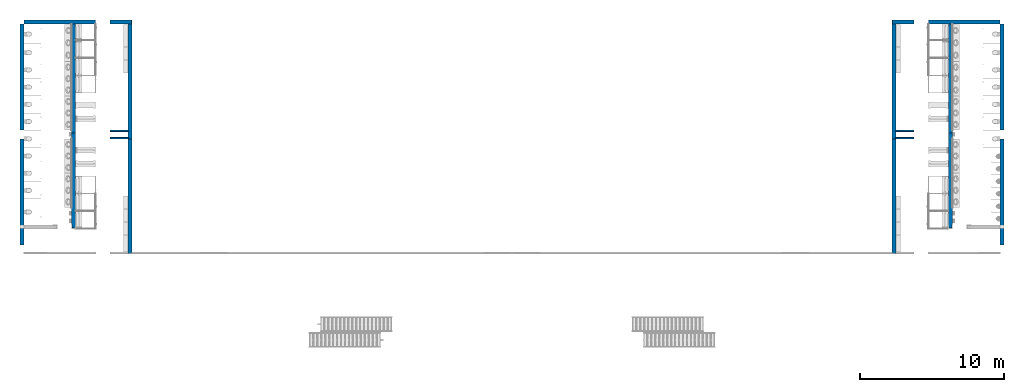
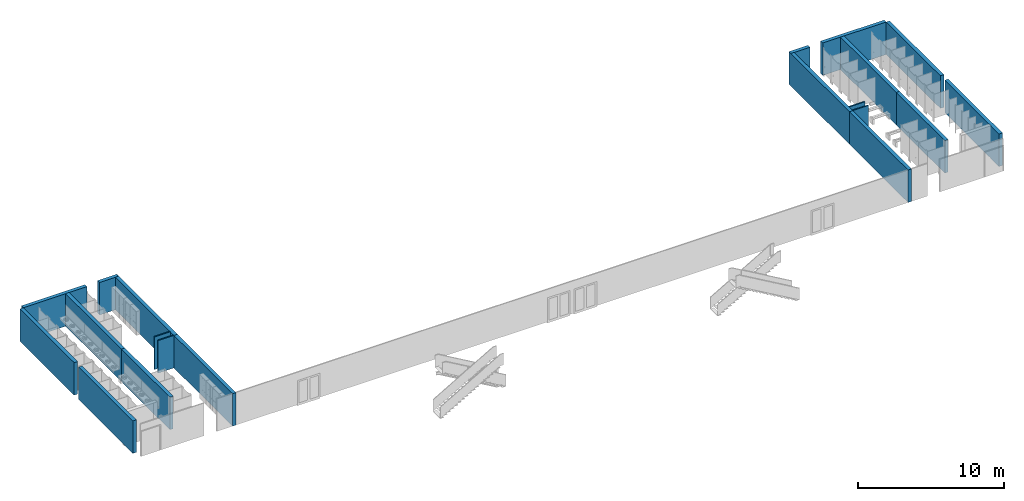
# One storey, part 1 of 22: 16 walls.
"""IFC2X3 building model written with IfcOpenShell, lengths in millimetres."""

from ifc_helpers import new_model, entity, si_unit, converted_unit, derived_unit, direction, frame, frame_2d, origin, origin_2d_with_axis, place, context, subcontext, project, spatial, polyline, rectangle, outline, extrude, material, type_object, element, save


model = new_model("IFC2X3")

# Units and contexts
model_context = context("Model", 3, precision=0.01, world=origin(), true_north=direction((6.12303176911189e-17, 1.0)))
body_context = subcontext(model_context, "Body", "Model", "MODEL_VIEW")
ifc_project = project(units=[si_unit("LENGTHUNIT", "METRE", prefix="MILLI"), si_unit("AREAUNIT", "SQUARE_METRE"), si_unit("VOLUMEUNIT", "CUBIC_METRE"), converted_unit("PLANEANGLEUNIT", "DEGREE", entity("IfcRatioMeasure", 0.0174532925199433), si_unit("PLANEANGLEUNIT", "RADIAN"), dimensions=[0, 0, 0, 0, 0, 0, 0]), si_unit("MASSUNIT", "GRAM", prefix="KILO"), derived_unit("MASSDENSITYUNIT", [(si_unit("MASSUNIT", "GRAM", prefix="KILO"), 1), (si_unit("LENGTHUNIT", "METRE"), -3)]), si_unit("TIMEUNIT", "SECOND"), si_unit("FREQUENCYUNIT", "HERTZ"), si_unit("THERMODYNAMICTEMPERATUREUNIT", "DEGREE_CELSIUS"), derived_unit("THERMALTRANSMITTANCEUNIT", [(si_unit("MASSUNIT", "GRAM", prefix="KILO"), 1), (si_unit("THERMODYNAMICTEMPERATUREUNIT", "KELVIN"), -1), (si_unit("TIMEUNIT", "SECOND"), -3)]), derived_unit("VOLUMETRICFLOWRATEUNIT", [(si_unit("LENGTHUNIT", "METRE"), 3), (si_unit("TIMEUNIT", "SECOND"), -1)]), si_unit("ELECTRICCURRENTUNIT", "AMPERE"), si_unit("ELECTRICVOLTAGEUNIT", "VOLT"), si_unit("POWERUNIT", "WATT"), si_unit("FORCEUNIT", "NEWTON", prefix="KILO"), si_unit("ILLUMINANCEUNIT", "LUX"), si_unit("LUMINOUSFLUXUNIT", "LUMEN"), si_unit("LUMINOUSINTENSITYUNIT", "CANDELA"), derived_unit("USERDEFINED", [(si_unit("MASSUNIT", "GRAM", prefix="KILO"), -1), (si_unit("LENGTHUNIT", "METRE"), -2), (si_unit("TIMEUNIT", "SECOND"), 3), (si_unit("LUMINOUSFLUXUNIT", "LUMEN"), 1)]), derived_unit("LINEARVELOCITYUNIT", [(si_unit("LENGTHUNIT", "METRE"), 1), (si_unit("TIMEUNIT", "SECOND"), -1)]), si_unit("PRESSUREUNIT", "PASCAL"), derived_unit("USERDEFINED", [(si_unit("LENGTHUNIT", "METRE"), -2), (si_unit("MASSUNIT", "GRAM", prefix="KILO"), 1), (si_unit("TIMEUNIT", "SECOND"), -2)])], contexts=[model_context])

# Site, building, storey
site_placement = place(None, origin())
site = spatial("IfcSite", under=ifc_project, at=site_placement, Name="Default", CompositionType="ELEMENT")
building_placement = place(site_placement, origin())
building = spatial("IfcBuilding", under=site, at=building_placement, CompositionType="ELEMENT")
storey_placement = place(building_placement, frame((0.0, 0.0, -3000.0)))
storey = spatial("IfcBuildingStorey", under=building, at=storey_placement, Name="-2. Story", CompositionType="ELEMENT", Elevation=-3000.0)

# Walls
ifc_material = material(Name="Stucco - White Fine")
wall_type_1 = type_object("IfcWallType", Name="SW - 015", PredefinedType="NOTDEFINED", material=ifc_material)
wall_1_placement = place(storey_placement, frame((54248.5254833, 74503.1569014, 90.0), z_axis=(0.0, 0.0, 1.0), x_axis=(0.0, 1.0, 0.0)))
element("IfcWall", 1, at=wall_1_placement, inside=storey, type_object=wall_type_1, material=ifc_material, Name="SW - 015:SW - 015", ObjectType="SW - 015:SW - 015", context=body_context, shape_type="SweptSolid", body=[
    extrude(rectangle(XDim=7900.00000000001, YDim=12.4999999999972, at=frame_2d((0.0, 4.33164615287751e-12), x_axis=(1.0, 0.0))), frame((4050.0, -6.24999999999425, 0.0), z_axis=(0.0, 0.0, 1.0), x_axis=(-1.0, 0.0, 0.0)), (0.0, 0.0, 1.0), 2710.0),
    extrude(rectangle(XDim=8000.0, YDim=250.000000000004, at=frame_2d((8.64019966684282e-12, 4.33431068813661e-12), x_axis=(1.0, 0.0))), frame((4000.0, -137.499999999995, 0.0), z_axis=(0.0, 0.0, 1.0), x_axis=(-1.0, 0.0, 0.0)), (0.0, 0.0, 1.0), 2710.0),
    extrude(rectangle(XDim=12.4999999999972, YDim=7900.00000000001, at=frame_2d((-4.33164615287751e-12, 0.0), x_axis=(1.0, 0.0))), frame((4050.0, -268.749999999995, 0.0), z_axis=(0.0, 0.0, 1.0), x_axis=(0.0, 1.0, 0.0)), (0.0, 0.0, 1.0), 2710.0),
])
wall_type_2 = type_object("IfcWallType", Name="SW - 013", PredefinedType="NOTDEFINED", material=ifc_material)
wall_2_placement = place(storey_placement, frame((46733.8569215, 75103.1569014, 90.0), z_axis=(0.0, 0.0, 1.0), x_axis=(0.0, 1.0, 0.0)))
element("IfcWall", 2, at=wall_2_placement, inside=storey, type_object=wall_type_2, material=ifc_material, Name="SW - 013:SW - 013", ObjectType="SW - 013:SW - 013", context=body_context, shape_type="SweptSolid", body=[
    extrude(rectangle(XDim=12.4999999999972, YDim=7400.79143556, at=frame_2d((4.33164615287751e-12, 8.64019966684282e-12), x_axis=(1.0, 0.0))), frame((11701.18715332, -268.750000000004, 0.0), z_axis=(0.0, 0.0, 1.0), x_axis=(0.0, 1.0, 0.0)), (0.0, 0.0, 1.0), 2710.0),
    extrude(rectangle(XDim=12.4999999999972, YDim=1138.29143554, at=frame_2d((-4.33164615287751e-12, -4.32009983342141e-12), x_axis=(1.0, 0.0))), frame((569.145717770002, -268.750000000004, 0.0), z_axis=(0.0, 0.0, 1.0), x_axis=(0.0, -1.0, 0.0)), (0.0, 0.0, 1.0), 2710.0),
    extrude(rectangle(XDim=12.4999999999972, YDim=6012.49999999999, at=frame_2d((4.33164615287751e-12, 0.0), x_axis=(1.0, 0.0))), frame((4394.54143554, -268.750000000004, 0.0), z_axis=(0.0, 0.0, 1.0), x_axis=(0.0, 1.0, 0.0)), (0.0, 0.0, 1.0), 2710.0),
    extrude(rectangle(XDim=250.000000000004, YDim=7400.79143556, at=frame_2d((-4.33431068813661e-12, 8.64019966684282e-12), x_axis=(1.0, 0.0))), frame((11701.18715332, -137.499999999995, 0.0), z_axis=(0.0, 0.0, 1.0), x_axis=(0.0, 1.0, 0.0)), (0.0, 0.0, 1.0), 2710.0),
    extrude(rectangle(XDim=250.000000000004, YDim=7400.79143553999, at=frame_2d((-4.33431068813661e-12, 0.0), x_axis=(1.0, 0.0))), frame((3700.39571777, -137.499999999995, 0.0), z_axis=(0.0, 0.0, 1.0), x_axis=(0.0, 1.0, 0.0)), (0.0, 0.0, 1.0), 2710.0),
    extrude(rectangle(XDim=12.4999999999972, YDim=7400.79143556, at=frame_2d((4.33164615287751e-12, 8.64019966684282e-12), x_axis=(1.0, 0.0))), frame((11701.18715332, -6.25000000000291, 0.0), z_axis=(0.0, 0.0, 1.0), x_axis=(0.0, 1.0, 0.0)), (0.0, 0.0, 1.0), 2710.0),
    extrude(rectangle(XDim=12.4999999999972, YDim=7400.79143553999, at=frame_2d((4.33164615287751e-12, 0.0), x_axis=(1.0, 0.0))), frame((3700.39571777, -6.25000000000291, 0.0), z_axis=(0.0, 0.0, 1.0), x_axis=(0.0, 1.0, 0.0)), (0.0, 0.0, 1.0), 2710.0),
])
wall_type_3 = type_object("IfcWallType", Name="SW - 013", PredefinedType="NOTDEFINED", material=ifc_material)
wall_3_placement = place(storey_placement, frame((47008.8569215, 90504.7397724, 90.0)))
element("IfcWall", 3, at=wall_3_placement, inside=storey, type_object=wall_type_3, material=ifc_material, Name="SW - 013 1489415:SW - 013 1489415", ObjectType="SW - 013 1489415:SW - 013 1489415", context=body_context, shape_type="SweptSolid", body=[
    extrude(rectangle(XDim=12.4999999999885, YDim=1252.16856178, at=frame_2d((-8.66284821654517e-12, 4.37694325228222e-12), x_axis=(1.0, 0.0))), frame((6626.08428089, 6.24999999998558, 0.0), z_axis=(0.0, 0.0, 1.0), x_axis=(0.0, -1.0, 0.0)), (0.0, 0.0, 1.0), 2710.0),
    extrude(rectangle(XDim=12.4999999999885, YDim=1414.87365918, at=frame_2d((8.66284821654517e-12, 0.0), x_axis=(1.0, 0.0))), frame((4292.56317041, 6.24999999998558, 0.0), z_axis=(0.0, 0.0, 1.0), x_axis=(0.0, 1.0, 0.0)), (0.0, 0.0, 1.0), 2710.0),
    extrude(rectangle(XDim=12.4999999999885, YDim=3335.12634082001, at=frame_2d((-8.66284821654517e-12, 4.32009983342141e-12), x_axis=(1.0, 0.0))), frame((1667.56317041, 6.24999999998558, 0.0), z_axis=(0.0, 0.0, 1.0), x_axis=(0.0, -1.0, 0.0)), (0.0, 0.0, 1.0), 2710.0),
    extrude(rectangle(XDim=250.000000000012, YDim=1502.16856178, at=origin_2d_with_axis()), frame((6751.08428089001, 137.499999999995, 0.0), z_axis=(0.0, 0.0, 1.0), x_axis=(0.0, -1.0, 0.0)), (0.0, 0.0, 1.0), 2710.0),
    extrude(rectangle(XDim=250.000000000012, YDim=5000.0, at=frame_2d((0.0, 4.54747350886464e-12), x_axis=(1.0, 0.0))), frame((2500.0, 137.499999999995, 0.0), z_axis=(0.0, 0.0, 1.0), x_axis=(0.0, -1.0, 0.0)), (0.0, 0.0, 1.0), 2710.0),
    extrude(rectangle(XDim=12.4999999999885, YDim=1514.66856178, at=frame_2d((8.66284821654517e-12, -4.32009983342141e-12), x_axis=(1.0, 0.0))), frame((6757.33428089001, 268.750000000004, 0.0), z_axis=(0.0, 0.0, 1.0), x_axis=(0.0, -1.0, 0.0)), (0.0, 0.0, 1.0), 2710.0),
    extrude(rectangle(XDim=12.4999999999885, YDim=5000.0, at=frame_2d((8.66284821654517e-12, 4.54747350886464e-12), x_axis=(1.0, 0.0))), frame((2500.0, 268.750000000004, 0.0), z_axis=(0.0, 0.0, 1.0), x_axis=(0.0, -1.0, 0.0)), (0.0, 0.0, 1.0), 2710.0),
])
wall_type_4 = type_object("IfcWallType", Name="SW - 015", PredefinedType="NOTDEFINED", material=ifc_material)
wall_4_placement = place(storey_placement, frame((50331.4832624, 76278.9483369, 90.0), z_axis=(0.0, 0.0, 1.0), x_axis=(0.0, 1.0, 0.0)))
element("IfcWall", 4, at=wall_4_placement, inside=storey, type_object=wall_type_4, material=ifc_material, Name="SW - 015 1508229:SW - 015 1508229", ObjectType="SW - 015 1508229:SW - 015 1508229", context=body_context, shape_type="SweptSolid", body=[
    extrude(outline(polyline([(-4836.25, -137.499999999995), (1528.74999999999, -137.499999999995), (1528.74999999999, -125.0), (1778.75, -125.0), (1778.75, 125.0), (1528.74999999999, 125.0), (1528.74999999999, 137.500000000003), (-4836.25, 137.500000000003), (-4836.25, -137.499999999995)])), frame((1778.75, -137.499999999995, 0.0), z_axis=(0.0, 0.0, 1.0), x_axis=(-1.0, 0.0, 0.0)), (0.0, 0.0, 1.0), 2710.0),
])
wall_type_5 = type_object("IfcWallType", Name="SW - 016", PredefinedType="NOTDEFINED", material=ifc_material)
wall_5_placement = place(storey_placement, frame((53009.17084852, 82503.1569014, 90.0)))
element("IfcWall", 5, at=wall_5_placement, inside=storey, type_object=wall_type_5, material=ifc_material, Name="SW - 016:SW - 016", ObjectType="SW - 016:SW - 016", context=body_context, shape_type="SweptSolid", body=[
    extrude(rectangle(XDim=1251.85463478, YDim=11.9999999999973, at=frame_2d((-4.32009983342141e-12, 0.0), x_axis=(1.0, 0.0))), frame((625.927317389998, 94.0, 0.0), z_axis=(0.0, 0.0, 1.0), x_axis=(-1.0, 0.0, 0.0)), (0.0, 0.0, 1.0), 2710.0),
    extrude(rectangle(XDim=1251.85463478, YDim=76.0000000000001, at=frame_2d((-4.32009983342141e-12, -8.66506866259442e-12), x_axis=(1.0, 0.0))), frame((625.927317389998, 50.0, 0.0), z_axis=(0.0, 0.0, 1.0), x_axis=(-1.0, 0.0, 0.0)), (0.0, 0.0, 1.0), 2710.0),
    extrude(rectangle(XDim=1251.85463478, YDim=11.9999999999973, at=frame_2d((-4.32009983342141e-12, 0.0), x_axis=(1.0, 0.0))), frame((625.927317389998, 6.0, 0.0), z_axis=(0.0, 0.0, 1.0), x_axis=(-1.0, 0.0, 0.0)), (0.0, 0.0, 1.0), 2710.0),
])
wall_type_6 = type_object("IfcWallType", Name="SW - 015", PredefinedType="NOTDEFINED", material=ifc_material)
wall_6_placement = place(storey_placement, frame((54248.5254833, 82503.1569014, 90.0), z_axis=(0.0, 0.0, 1.0), x_axis=(0.0, 1.0, 0.0)))
element("IfcWall", 6, at=wall_6_placement, inside=storey, type_object=wall_type_6, material=ifc_material, Name="SW - 015 1539402:SW - 015 1539402", ObjectType="SW - 015 1539402:SW - 015 1539402", context=body_context, shape_type="SweptSolid", body=[
    extrude(rectangle(XDim=12.4999999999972, YDim=8264.08287106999, at=frame_2d((4.33164615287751e-12, 8.64019966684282e-12), x_axis=(1.0, 0.0))), frame((4132.04143553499, -268.749999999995, 0.0), z_axis=(0.0, 0.0, 1.0), x_axis=(0.0, -1.0, 0.0)), (0.0, 0.0, 1.0), 2710.0),
    extrude(rectangle(XDim=8014.08287107, YDim=250.000000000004, at=frame_2d((0.0, 4.33431068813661e-12), x_axis=(1.0, 0.0))), frame((4007.041435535, -137.500000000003, 0.0)), (0.0, 0.0, 1.0), 2710.0),
    extrude(rectangle(XDim=12.4999999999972, YDim=7401.58287106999, at=frame_2d((-4.33164615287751e-12, 0.0), x_axis=(1.0, 0.0))), frame((4300.791435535, -6.25000000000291, 0.0), z_axis=(0.0, 0.0, 1.0), x_axis=(0.0, -1.0, 0.0)), (0.0, 0.0, 1.0), 2710.0),
    extrude(rectangle(XDim=399.999999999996, YDim=12.4999999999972, at=frame_2d((-8.66862137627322e-12, 4.33164615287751e-12), x_axis=(1.0, 0.0))), frame((300.0, -6.25000000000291, 0.0)), (0.0, 0.0, 1.0), 2710.0),
])
wall_type_7 = type_object("IfcWallType", Name="SW - 015", PredefinedType="NOTDEFINED", material=ifc_material)
wall_7_placement = place(storey_placement, frame((50331.4832624, 82713.9483369, 90.0), z_axis=(0.0, 0.0, 1.0), x_axis=(0.0, 1.0, 0.0)))
element("IfcWall", 7, at=wall_7_placement, inside=storey, type_object=wall_type_7, material=ifc_material, Name="SW - 015 1539919:SW - 015 1539919", ObjectType="SW - 015 1539919:SW - 015 1539919", context=body_context, shape_type="SweptSolid", body=[
    extrude(rectangle(XDim=12.4999999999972, YDim=7790.79143554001, at=frame_2d((4.33164615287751e-12, 0.0), x_axis=(1.0, 0.0))), frame((3895.39571777, -268.750000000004, 0.0), z_axis=(0.0, 0.0, 1.0), x_axis=(0.0, 1.0, 0.0)), (0.0, 0.0, 1.0), 2710.0),
    extrude(rectangle(XDim=250.000000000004, YDim=7803.29143554, at=frame_2d((-4.33431068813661e-12, 8.64019966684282e-12), x_axis=(1.0, 0.0))), frame((3901.64571777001, -137.499999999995, 0.0), z_axis=(0.0, 0.0, 1.0), x_axis=(0.0, 1.0, 0.0)), (0.0, 0.0, 1.0), 2710.0),
    extrude(rectangle(XDim=12.4999999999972, YDim=7790.79143554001, at=frame_2d((4.33164615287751e-12, 0.0), x_axis=(1.0, 0.0))), frame((3895.39571777, -6.25000000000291, 0.0), z_axis=(0.0, 0.0, 1.0), x_axis=(0.0, 1.0, 0.0)), (0.0, 0.0, 1.0), 2710.0),
])
wall_type_8 = type_object("IfcWallType", Name="SW - 016", PredefinedType="NOTDEFINED", material=ifc_material)
wall_8_placement = place(storey_placement, frame((53009.17084852, 83003.1569014, 90.0)))
element("IfcWall", 8, at=wall_8_placement, inside=storey, type_object=wall_type_8, material=ifc_material, Name="SW - 016 1571308:SW - 016 1571308", ObjectType="SW - 016 1571308:SW - 016 1571308", context=body_context, shape_type="SweptSolid", body=[
    extrude(rectangle(XDim=1251.85463478, YDim=11.9999999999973, at=frame_2d((4.32009983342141e-12, 0.0), x_axis=(1.0, 0.0))), frame((625.927317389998, 94.0, 0.0)), (0.0, 0.0, 1.0), 2710.0),
    extrude(rectangle(XDim=1251.85463478, YDim=76.0000000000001, at=frame_2d((4.32009983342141e-12, -8.66506866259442e-12), x_axis=(1.0, 0.0))), frame((625.927317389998, 50.0, 0.0)), (0.0, 0.0, 1.0), 2710.0),
    extrude(rectangle(XDim=1251.85463478, YDim=12.0000000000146, at=frame_2d((4.32009983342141e-12, 8.66284821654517e-12), x_axis=(1.0, 0.0))), frame((625.927317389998, 6.0, 0.0)), (0.0, 0.0, 1.0), 2710.0),
])
wall_type_9 = type_object("IfcWallType", Name="SW - 013", PredefinedType="NOTDEFINED", material=ifc_material)
wall_9_placement = place(storey_placement, frame((115008.856922, 75103.1569014, 90.0), z_axis=(0.0, 0.0, 1.0), x_axis=(0.0, 1.0, 0.0)))
element("IfcWall", 9, at=wall_9_placement, inside=storey, type_object=wall_type_9, material=ifc_material, Name="SW - 013 1576260:SW - 013 1576260", ObjectType="SW - 013 1576260:SW - 013 1576260", context=body_context, shape_type="SweptSolid", body=[
    extrude(rectangle(XDim=12.4999999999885, YDim=7400.79143556, at=frame_2d((-8.66284821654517e-12, 8.64019966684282e-12), x_axis=(1.0, 0.0))), frame((11701.18715332, -268.749999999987, 0.0), z_axis=(0.0, 0.0, 1.0), x_axis=(0.0, 1.0, 0.0)), (0.0, 0.0, 1.0), 2710.0),
    extrude(rectangle(XDim=12.4999999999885, YDim=7400.79143553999, at=frame_2d((8.66284821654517e-12, 0.0), x_axis=(1.0, 0.0))), frame((3700.39571777, -268.749999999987, 0.0), z_axis=(0.0, 0.0, 1.0), x_axis=(0.0, -1.0, 0.0)), (0.0, 0.0, 1.0), 2710.0),
    extrude(rectangle(XDim=250.000000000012, YDim=7400.79143556, at=frame_2d((0.0, 8.64019966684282e-12), x_axis=(1.0, 0.0))), frame((11701.18715332, -137.499999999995, 0.0), z_axis=(0.0, 0.0, 1.0), x_axis=(0.0, 1.0, 0.0)), (0.0, 0.0, 1.0), 2710.0),
    extrude(rectangle(XDim=250.000000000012, YDim=7400.79143553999, at=origin_2d_with_axis()), frame((3700.39571777, -137.499999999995, 0.0), z_axis=(0.0, 0.0, 1.0), x_axis=(0.0, -1.0, 0.0)), (0.0, 0.0, 1.0), 2710.0),
    extrude(rectangle(XDim=12.4999999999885, YDim=7400.79143556, at=frame_2d((8.66284821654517e-12, 8.64019966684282e-12), x_axis=(1.0, 0.0))), frame((11701.18715332, -6.25000000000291, 0.0), z_axis=(0.0, 0.0, 1.0), x_axis=(0.0, 1.0, 0.0)), (0.0, 0.0, 1.0), 2710.0),
    extrude(rectangle(XDim=12.4999999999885, YDim=6012.49999999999, at=frame_2d((8.66284821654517e-12, 0.0), x_axis=(1.0, 0.0))), frame((4394.54143554, -6.25000000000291, 0.0), z_axis=(0.0, 0.0, 1.0), x_axis=(0.0, 1.0, 0.0)), (0.0, 0.0, 1.0), 2710.0),
    extrude(rectangle(XDim=12.4999999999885, YDim=1138.29143554, at=frame_2d((-8.66284821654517e-12, -4.32009983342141e-12), x_axis=(1.0, 0.0))), frame((569.145717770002, -6.25000000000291, 0.0), z_axis=(0.0, 0.0, 1.0), x_axis=(0.0, -1.0, 0.0)), (0.0, 0.0, 1.0), 2710.0),
])
wall_type_10 = type_object("IfcWallType", Name="SW - 013", PredefinedType="NOTDEFINED", material=ifc_material)
wall_10_placement = place(storey_placement, frame((107494.18836022, 90504.7397724, 90.0)))
element("IfcWall", 10, at=wall_10_placement, inside=storey, type_object=wall_type_10, material=ifc_material, Name="SW - 013 1576978:SW - 013 1576978", ObjectType="SW - 013 1576978:SW - 013 1576978", context=body_context, shape_type="SweptSolid", body=[
    extrude(rectangle(XDim=12.4999999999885, YDim=5000.00000000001, at=frame_2d((-8.66284821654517e-12, 1.75077730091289e-11), x_axis=(1.0, 0.0))), frame((5014.66856178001, 268.750000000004, 0.0), z_axis=(0.0, 0.0, 1.0), x_axis=(0.0, 1.0, 0.0)), (0.0, 0.0, 1.0), 2710.0),
    extrude(rectangle(XDim=12.4999999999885, YDim=1514.66856177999, at=frame_2d((-8.66284821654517e-12, 0.0), x_axis=(1.0, 0.0))), frame((757.334280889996, 268.750000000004, 0.0), z_axis=(0.0, 0.0, 1.0), x_axis=(0.0, 1.0, 0.0)), (0.0, 0.0, 1.0), 2710.0),
    extrude(rectangle(XDim=250.000000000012, YDim=5000.00000000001, at=frame_2d((0.0, 1.75077730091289e-11), x_axis=(1.0, 0.0))), frame((5014.66856178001, 137.499999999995, 0.0), z_axis=(0.0, 0.0, 1.0), x_axis=(0.0, 1.0, 0.0)), (0.0, 0.0, 1.0), 2710.0),
    extrude(rectangle(XDim=250.000000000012, YDim=1502.16856178, at=frame_2d((0.0, -8.64019966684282e-12), x_axis=(1.0, 0.0))), frame((763.584280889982, 137.499999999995, 0.0), z_axis=(0.0, 0.0, 1.0), x_axis=(0.0, 1.0, 0.0)), (0.0, 0.0, 1.0), 2710.0),
    extrude(rectangle(XDim=12.4999999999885, YDim=1414.87365918, at=frame_2d((-8.66284821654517e-12, -8.64019966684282e-12), x_axis=(1.0, 0.0))), frame((3222.10539137, 6.24999999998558, 0.0), z_axis=(0.0, 0.0, 1.0), x_axis=(0.0, -1.0, 0.0)), (0.0, 0.0, 1.0), 2710.0),
    extrude(rectangle(XDim=12.4999999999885, YDim=3335.12634082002, at=frame_2d((8.66284821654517e-12, 0.0), x_axis=(1.0, 0.0))), frame((5847.10539136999, 6.24999999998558, 0.0), z_axis=(0.0, 0.0, 1.0), x_axis=(0.0, 1.0, 0.0)), (0.0, 0.0, 1.0), 2710.0),
    extrude(rectangle(XDim=12.4999999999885, YDim=1252.16856177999, at=frame_2d((8.66284821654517e-12, 8.69704308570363e-12), x_axis=(1.0, 0.0))), frame((888.584280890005, 6.24999999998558, 0.0), z_axis=(0.0, 0.0, 1.0), x_axis=(0.0, 1.0, 0.0)), (0.0, 0.0, 1.0), 2710.0),
])
wall_type_11 = type_object("IfcWallType", Name="SW - 016", PredefinedType="NOTDEFINED", material=ifc_material)
wall_11_placement = place(storey_placement, frame((107756.68836, 83003.1569014, 90.0)))
element("IfcWall", 11, at=wall_11_placement, inside=storey, type_object=wall_type_11, material=ifc_material, Name="SW - 016 1586748:SW - 016 1586748", ObjectType="SW - 016 1586748:SW - 016 1586748", context=body_context, shape_type="SweptSolid", body=[
    extrude(rectangle(XDim=1251.85463478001, YDim=12.0000000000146, at=frame_2d((0.0, -8.66284821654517e-12), x_axis=(1.0, 0.0))), frame((625.927317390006, 6.0, 0.0), z_axis=(0.0, 0.0, 1.0), x_axis=(-1.0, 0.0, 0.0)), (0.0, 0.0, 1.0), 2710.0),
    extrude(rectangle(XDim=1251.85463478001, YDim=76.0000000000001, at=frame_2d((0.0, -8.66506866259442e-12), x_axis=(1.0, 0.0))), frame((625.927317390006, 50.0, 0.0), z_axis=(0.0, 0.0, 1.0), x_axis=(-1.0, 0.0, 0.0)), (0.0, 0.0, 1.0), 2710.0),
    extrude(rectangle(XDim=1251.85463478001, YDim=11.9999999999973, at=origin_2d_with_axis()), frame((625.927317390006, 94.0, 0.0), z_axis=(0.0, 0.0, 1.0), x_axis=(-1.0, 0.0, 0.0)), (0.0, 0.0, 1.0), 2710.0),
])
wall_type_12 = type_object("IfcWallType", Name="SW - 015", PredefinedType="NOTDEFINED", material=ifc_material)
wall_12_placement = place(storey_placement, frame((107494.18836, 74503.1569014, 90.0), z_axis=(0.0, 0.0, 1.0), x_axis=(0.0, 1.0, 0.0)))
element("IfcWall", 12, at=wall_12_placement, inside=storey, type_object=wall_type_12, material=ifc_material, Name="SW - 015 1587253:SW - 015 1587253", ObjectType="SW - 015 1587253:SW - 015 1587253", context=body_context, shape_type="SweptSolid", body=[
    extrude(rectangle(XDim=12.5000000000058, YDim=7900.00000000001, at=origin_2d_with_axis()), frame((4050.0, -6.25000000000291, 0.0), z_axis=(0.0, 0.0, 1.0), x_axis=(0.0, 1.0, 0.0)), (0.0, 0.0, 1.0), 2710.0),
    extrude(rectangle(XDim=8000.0, YDim=249.999999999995, at=frame_2d((8.64019966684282e-12, -8.66151594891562e-12), x_axis=(1.0, 0.0))), frame((4000.0, -137.500000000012, 0.0), z_axis=(0.0, 0.0, 1.0), x_axis=(-1.0, 0.0, 0.0)), (0.0, 0.0, 1.0), 2710.0),
    extrude(rectangle(XDim=7900.00000000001, YDim=12.5000000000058, at=origin_2d_with_axis()), frame((4050.0, -268.750000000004, 0.0), z_axis=(0.0, 0.0, 1.0), x_axis=(-1.0, 0.0, 0.0)), (0.0, 0.0, 1.0), 2710.0),
])
wall_type_13 = type_object("IfcWallType", Name="SW - 015", PredefinedType="NOTDEFINED", material=ifc_material)
wall_13_placement = place(storey_placement, frame((111411.230581, 76278.9483369, 90.0), z_axis=(0.0, 0.0, 1.0), x_axis=(0.0, 1.0, 0.0)))
element("IfcWall", 13, at=wall_13_placement, inside=storey, type_object=wall_type_13, material=ifc_material, Name="SW - 015 1587762:SW - 015 1587762", ObjectType="SW - 015 1587762:SW - 015 1587762", context=body_context, shape_type="SweptSolid", body=[
    extrude(outline(polyline([(-4836.25, -137.499999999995), (1528.74999999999, -137.499999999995), (1528.74999999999, -125.0), (1778.75, -125.0), (1778.75, 125.0), (1528.74999999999, 125.0), (1528.74999999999, 137.500000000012), (-4836.25, 137.500000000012), (-4836.25, -137.499999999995)])), frame((1778.75, -137.499999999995, 0.0), z_axis=(0.0, 0.0, 1.0), x_axis=(-1.0, 0.0, 0.0)), (0.0, 0.0, 1.0), 2710.0),
])
wall_type_14 = type_object("IfcWallType", Name="SW - 016", PredefinedType="NOTDEFINED", material=ifc_material)
wall_14_placement = place(storey_placement, frame((107756.68836, 82503.1569014, 90.0)))
element("IfcWall", 14, at=wall_14_placement, inside=storey, type_object=wall_type_14, material=ifc_material, Name="SW - 016 1594780:SW - 016 1594780", ObjectType="SW - 016 1594780:SW - 016 1594780", context=body_context, shape_type="SweptSolid", body=[
    extrude(rectangle(XDim=1251.85463478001, YDim=11.9999999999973, at=origin_2d_with_axis()), frame((625.927317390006, 6.0, 0.0)), (0.0, 0.0, 1.0), 2710.0),
    extrude(rectangle(XDim=1251.85463478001, YDim=76.0000000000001, at=frame_2d((0.0, -8.66506866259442e-12), x_axis=(1.0, 0.0))), frame((625.927317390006, 50.0, 0.0)), (0.0, 0.0, 1.0), 2710.0),
    extrude(rectangle(XDim=1251.85463478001, YDim=11.9999999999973, at=origin_2d_with_axis()), frame((625.927317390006, 94.0, 0.0)), (0.0, 0.0, 1.0), 2710.0),
])
wall_type_15 = type_object("IfcWallType", Name="SW - 015", PredefinedType="NOTDEFINED", material=ifc_material)
wall_15_placement = place(storey_placement, frame((107494.18836, 82503.1569014, 90.0), z_axis=(0.0, 0.0, 1.0), x_axis=(0.0, 1.0, 0.0)))
element("IfcWall", 15, at=wall_15_placement, inside=storey, type_object=wall_type_15, material=ifc_material, Name="SW - 015 1601783:SW - 015 1601783", ObjectType="SW - 015 1601783:SW - 015 1601783", context=body_context, shape_type="SweptSolid", body=[
    extrude(rectangle(XDim=7401.58287106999, YDim=12.5000000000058, at=origin_2d_with_axis()), frame((4300.791435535, -268.750000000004, 0.0), z_axis=(0.0, 0.0, 1.0), x_axis=(-1.0, 0.0, 0.0)), (0.0, 0.0, 1.0), 2710.0),
    extrude(rectangle(XDim=12.5000000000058, YDim=399.999999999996, at=frame_2d((0.0, -8.66862137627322e-12), x_axis=(1.0, 0.0))), frame((300.0, -268.750000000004, 0.0), z_axis=(0.0, 0.0, 1.0), x_axis=(0.0, -1.0, 0.0)), (0.0, 0.0, 1.0), 2710.0),
    extrude(rectangle(XDim=249.999999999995, YDim=8014.08287107, at=frame_2d((8.66151594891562e-12, 0.0), x_axis=(1.0, 0.0))), frame((4007.041435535, -137.499999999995, 0.0), z_axis=(0.0, 0.0, 1.0), x_axis=(0.0, -1.0, 0.0)), (0.0, 0.0, 1.0), 2710.0),
    extrude(rectangle(XDim=8264.08287106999, YDim=12.5000000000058, at=frame_2d((8.64019966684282e-12, 0.0), x_axis=(1.0, 0.0))), frame((4132.041435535, -6.25000000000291, 0.0), z_axis=(0.0, 0.0, 1.0), x_axis=(-1.0, 0.0, 0.0)), (0.0, 0.0, 1.0), 2710.0),
])
wall_type_16 = type_object("IfcWallType", Name="SW - 015", PredefinedType="NOTDEFINED", material=ifc_material)
wall_16_placement = place(storey_placement, frame((111411.230581, 82713.9483369, 90.0), z_axis=(0.0, 0.0, 1.0), x_axis=(0.0, 1.0, 0.0)))
element("IfcWall", 16, at=wall_16_placement, inside=storey, type_object=wall_type_16, material=ifc_material, Name="SW - 015 1602304:SW - 015 1602304", ObjectType="SW - 015 1602304:SW - 015 1602304", context=body_context, shape_type="SweptSolid", body=[
    extrude(rectangle(XDim=12.5000000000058, YDim=7790.79143554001, at=origin_2d_with_axis()), frame((3895.39571777, -268.750000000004, 0.0), z_axis=(0.0, 0.0, 1.0), x_axis=(0.0, 1.0, 0.0)), (0.0, 0.0, 1.0), 2710.0),
    extrude(rectangle(XDim=249.999999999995, YDim=7803.29143554, at=frame_2d((8.66151594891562e-12, 8.64019966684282e-12), x_axis=(1.0, 0.0))), frame((3901.64571777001, -137.500000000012, 0.0), z_axis=(0.0, 0.0, 1.0), x_axis=(0.0, 1.0, 0.0)), (0.0, 0.0, 1.0), 2710.0),
    extrude(rectangle(XDim=12.5000000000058, YDim=7790.79143554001, at=origin_2d_with_axis()), frame((3895.39571777, -6.25000000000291, 0.0), z_axis=(0.0, 0.0, 1.0), x_axis=(0.0, 1.0, 0.0)), (0.0, 0.0, 1.0), 2710.0),
])

save(model, "model.ifc")
